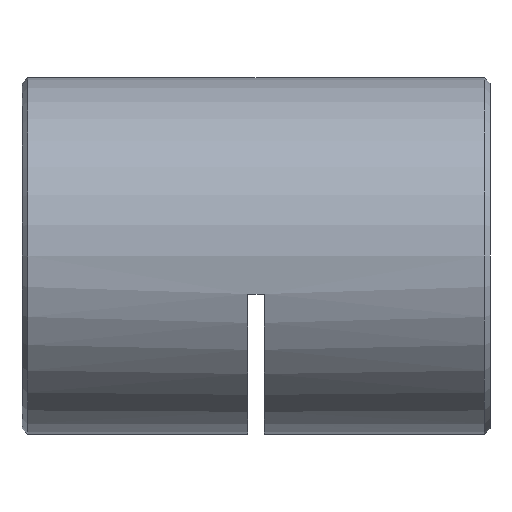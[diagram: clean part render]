
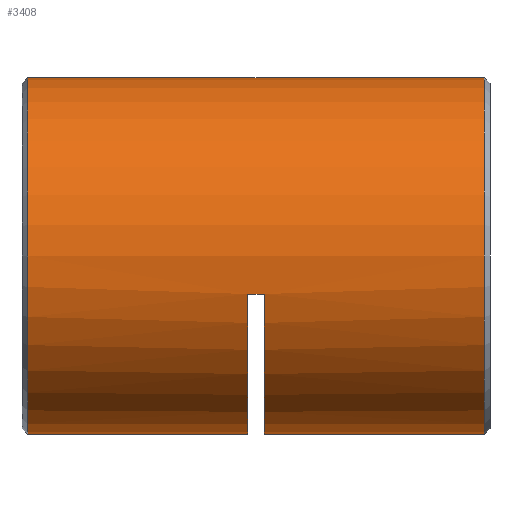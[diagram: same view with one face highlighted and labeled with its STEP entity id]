
A CAD part, left-side view. The second image highlights one B-rep face of the part: STEP entity #3408.
In plain terms, the highlighted cylindrical face has radius 16 mm (diameter 32 mm), a partial arc.
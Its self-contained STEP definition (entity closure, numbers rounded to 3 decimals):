
#57 = DIRECTION ( 'NONE',  ( 0., 0., -1. ) ) ;
#99 = CARTESIAN_POINT ( 'NONE',  ( -15.632, 21.25, -3.413 ) ) ;
#212 = CARTESIAN_POINT ( 'NONE',  ( 0., 41.75, 16. ) ) ;
#216 = VERTEX_POINT ( 'NONE', #212 ) ;
#388 = AXIS2_PLACEMENT_3D ( 'NONE', #949, #4833, #525 ) ;
#525 = DIRECTION ( 'NONE',  ( 0., 0., -1. ) ) ;
#637 = CARTESIAN_POINT ( 'NONE',  ( 0., 42.5, 0. ) ) ;
#771 = VERTEX_POINT ( 'NONE', #3325 ) ;
#818 = VERTEX_POINT ( 'NONE', #2041 ) ;
#924 = CARTESIAN_POINT ( 'NONE',  ( 0., 42.5, 16. ) ) ;
#948 = EDGE_LOOP ( 'NONE', ( #4330, #2470, #3999, #6028, #1357, #5549, #4671, #5070 ) ) ;
#949 = CARTESIAN_POINT ( 'NONE',  ( 0., 22., 0. ) ) ;
#1043 = EDGE_CURVE ( 'NONE', #4776, #4599, #6151, .T. ) ;
#1096 = DIRECTION ( 'NONE',  ( 0., 0., -1. ) ) ;
#1115 = VERTEX_POINT ( 'NONE', #2878 ) ;
#1357 = ORIENTED_EDGE ( 'NONE', *, *, #5179, .T. ) ;
#1375 = CIRCLE ( 'NONE', #1776, 16. ) ;
#1605 = EDGE_CURVE ( 'NONE', #818, #4776, #5692, .T. ) ;
#1776 = AXIS2_PLACEMENT_3D ( 'NONE', #5276, #4769, #57 ) ;
#1852 = DIRECTION ( 'NONE',  ( 0., 0., 1. ) ) ;
#1951 = VECTOR ( 'NONE', #2293, 1000. ) ;
#2031 = VERTEX_POINT ( 'NONE', #2770 ) ;
#2041 = CARTESIAN_POINT ( 'NONE',  ( 0., 20.5, -16. ) ) ;
#2077 = CARTESIAN_POINT ( 'NONE',  ( -15.632, 22., -3.413 ) ) ;
#2199 = CARTESIAN_POINT ( 'NONE',  ( 0., 0.75, -16. ) ) ;
#2293 = DIRECTION ( 'NONE',  ( 0., -1., 0. ) ) ;
#2351 = DIRECTION ( 'NONE',  ( 0., -1., 0. ) ) ;
#2459 = VECTOR ( 'NONE', #6133, 1000. ) ;
#2470 = ORIENTED_EDGE ( 'NONE', *, *, #3982, .T. ) ;
#2694 = AXIS2_PLACEMENT_3D ( 'NONE', #637, #5822, #1096 ) ;
#2770 = CARTESIAN_POINT ( 'NONE',  ( 0., 41.75, -16. ) ) ;
#2778 = CARTESIAN_POINT ( 'NONE',  ( 0., 0.75, 0. ) ) ;
#2878 = CARTESIAN_POINT ( 'NONE',  ( -15.632, 20.5, -3.413 ) ) ;
#3004 = VECTOR ( 'NONE', #2351, 1000. ) ;
#3196 = CIRCLE ( 'NONE', #5794, 16. ) ;
#3325 = CARTESIAN_POINT ( 'NONE',  ( 0., 22., -16. ) ) ;
#3408 = ADVANCED_FACE ( 'NONE', ( #3947 ), #5607, .T. ) ;
#3457 = LINE ( 'NONE', #924, #1951 ) ;
#3488 = CIRCLE ( 'NONE', #388, 16. ) ;
#3571 = LINE ( 'NONE', #5228, #2459 ) ;
#3584 = EDGE_CURVE ( 'NONE', #2031, #771, #3571, .T. ) ;
#3680 = VECTOR ( 'NONE', #5380, 1000. ) ;
#3752 = VERTEX_POINT ( 'NONE', #2077 ) ;
#3858 = LINE ( 'NONE', #99, #3680 ) ;
#3947 = FACE_OUTER_BOUND ( 'NONE', #948, .T. ) ;
#3982 = EDGE_CURVE ( 'NONE', #216, #2031, #3196, .T. ) ;
#3999 = ORIENTED_EDGE ( 'NONE', *, *, #3584, .T. ) ;
#4217 = DIRECTION ( 'NONE',  ( 0., 1., 0. ) ) ;
#4330 = ORIENTED_EDGE ( 'NONE', *, *, #5106, .F. ) ;
#4599 = VERTEX_POINT ( 'NONE', #6019 ) ;
#4650 = DIRECTION ( 'NONE',  ( 0., 0., -1. ) ) ;
#4671 = ORIENTED_EDGE ( 'NONE', *, *, #1605, .T. ) ;
#4769 = DIRECTION ( 'NONE',  ( 0., -1., 0. ) ) ;
#4776 = VERTEX_POINT ( 'NONE', #2199 ) ;
#4833 = DIRECTION ( 'NONE',  ( 0., -1., 0. ) ) ;
#4877 = AXIS2_PLACEMENT_3D ( 'NONE', #2778, #4217, #1852 ) ;
#5070 = ORIENTED_EDGE ( 'NONE', *, *, #1043, .T. ) ;
#5098 = DIRECTION ( 'NONE',  ( 0., -1., 0. ) ) ;
#5106 = EDGE_CURVE ( 'NONE', #216, #4599, #3457, .T. ) ;
#5179 = EDGE_CURVE ( 'NONE', #3752, #1115, #3858, .T. ) ;
#5228 = CARTESIAN_POINT ( 'NONE',  ( 0., 42.5, -16. ) ) ;
#5276 = CARTESIAN_POINT ( 'NONE',  ( 0., 20.5, 0. ) ) ;
#5380 = DIRECTION ( 'NONE',  ( 0., -1., 0. ) ) ;
#5549 = ORIENTED_EDGE ( 'NONE', *, *, #5586, .T. ) ;
#5586 = EDGE_CURVE ( 'NONE', #1115, #818, #1375, .T. ) ;
#5588 = CARTESIAN_POINT ( 'NONE',  ( 0., 41.75, 0. ) ) ;
#5607 = CYLINDRICAL_SURFACE ( 'NONE', #2694, 16. ) ;
#5619 = CARTESIAN_POINT ( 'NONE',  ( 0., 42.5, -16. ) ) ;
#5692 = LINE ( 'NONE', #5619, #3004 ) ;
#5794 = AXIS2_PLACEMENT_3D ( 'NONE', #5588, #5098, #4650 ) ;
#5822 = DIRECTION ( 'NONE',  ( 0., -1., 0. ) ) ;
#5982 = EDGE_CURVE ( 'NONE', #3752, #771, #3488, .T. ) ;
#6019 = CARTESIAN_POINT ( 'NONE',  ( 0., 0.75, 16. ) ) ;
#6028 = ORIENTED_EDGE ( 'NONE', *, *, #5982, .F. ) ;
#6133 = DIRECTION ( 'NONE',  ( 0., -1., 0. ) ) ;
#6151 = CIRCLE ( 'NONE', #4877, 16. ) ;
